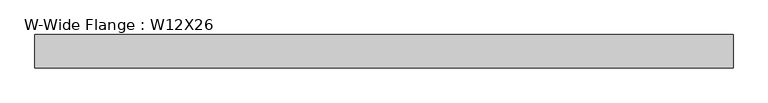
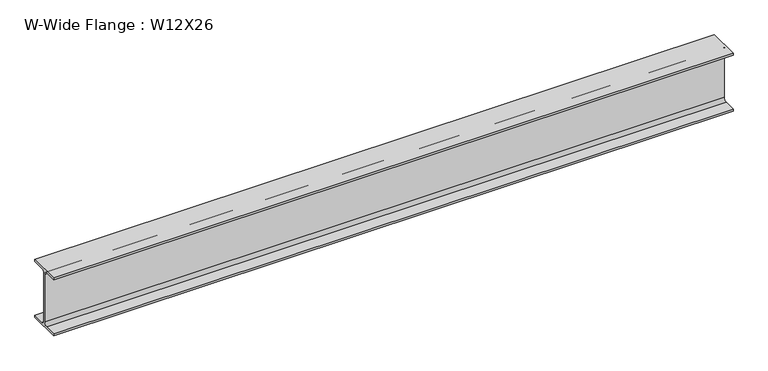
"""IFC4 building model written with IfcOpenShell, lengths in millimetres: beam geometry, W-Wide Flange : W12X26."""

from ifc_helpers import new_model, si_unit, point, frame, frame_2d, origin, place, context, project, spatial, polyline, circle_curve, trimmed, segment, composite_curve, outline, extrude, source, transform, mapped, element, save


def w_wide_flange_w12x26_56e9a040(model_context):
    return source(origin(), model_context, "Body", "SweptSolid", [
        extrude(outline(composite_curve([segment(polyline([(82.4011719, -145.5539063), (82.4011719, -155.178125), (-82.4011719, -155.178125), (-82.4011719, -145.5539063), (-20.2902344, -145.5539063)]), True, "CONTINUOUS"), segment(trimmed(circle_curve(frame_2d((-20.2902344, -128.190625)), 17.3632812), [point((-20.2902344, -145.5539063))], [point((-2.9269531, -128.190625))], True, "CARTESIAN"), True, "CONTINUOUS"), segment(polyline([(-2.9269531, -128.190625), (-2.9269531, 128.190625)]), True, "CONTINUOUS"), segment(trimmed(circle_curve(frame_2d((-20.2902344, 128.190625)), 17.3632812), [point((-2.9269531, 128.190625))], [point((-20.2902344, 145.5539062))], True, "CARTESIAN"), True, "CONTINUOUS"), segment(polyline([(-20.2902344, 145.5539062), (-82.4011719, 145.5539062), (-82.4011719, 155.178125), (82.4011719, 155.178125), (82.4011719, 145.5539062), (20.2902344, 145.5539062)]), True, "CONTINUOUS"), segment(trimmed(circle_curve(frame_2d((20.2902344, 128.190625)), 17.3632812), [point((20.2902344, 145.5539062))], [point((2.9269531, 128.190625))], True, "CARTESIAN"), True, "CONTINUOUS"), segment(polyline([(2.9269531, 128.190625), (2.9269531, -128.190625)]), True, "CONTINUOUS"), segment(trimmed(circle_curve(frame_2d((20.2902344, -128.190625)), 17.3632812), [point((2.9269531, -128.190625))], [point((20.2902344, -145.5539063))], True, "CARTESIAN"), True, "CONTINUOUS"), segment(polyline([(20.2902344, -145.5539063), (82.4011719, -145.5539063)]), True, "CONTINUOUS")], self_intersect=False)), frame((-1730.6230469, 0.0, 0.0), z_axis=(1.0, 0.0, 0.0), x_axis=(0.0, 1.0, 0.0)), (0.0, 0.0, 1.0), 3461.2460937),
    ])


if __name__ == "__main__":
    model = new_model("IFC4")
    model_context = context("Model", 3, world=origin())
    ifc_project = project(units=[si_unit("LENGTHUNIT", "METRE", prefix="MILLI")], contexts=[model_context])
    site = spatial("IfcSite", under=ifc_project)
    building = spatial("IfcBuilding", under=site)
    placement = place(None, origin())
    w_wide_flange_w12x26_shape = w_wide_flange_w12x26_56e9a040(model_context)
    element("IfcBeam", 1, ObjectType="W-Wide Flange : W12X26", at=placement, inside=building, context=model_context, shape_type="MappedRepresentation", body=[
        mapped(w_wide_flange_w12x26_shape, transform((0.0, 0.0, 0.0), x_axis=(1.0, 0.0, 0.0), y_axis=(0.0, 1.0, 0.0), z_axis=(0.0, 0.0, 1.0))),
    ])
    save(model, "model.ifc")
